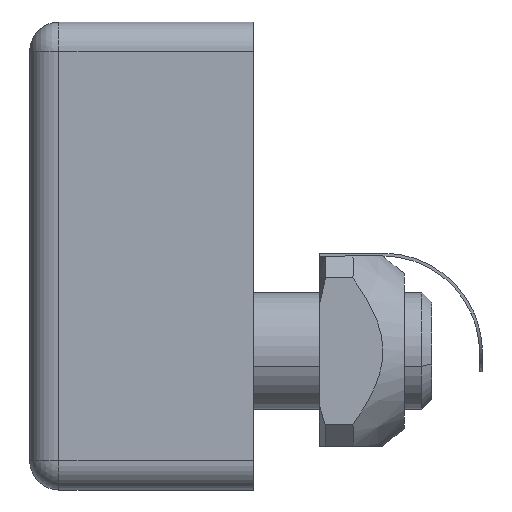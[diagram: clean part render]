
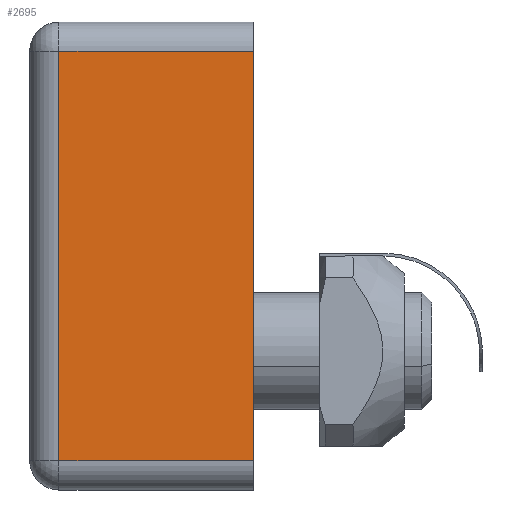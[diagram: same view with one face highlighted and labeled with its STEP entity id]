
A CAD part, left-side view. The second image highlights one B-rep face of the part: STEP entity #2695.
In plain terms, the highlighted planar face has unit normal (-1, 0, 0).
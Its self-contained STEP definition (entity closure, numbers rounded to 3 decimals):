
#185 = AXIS2_PLACEMENT_3D ( 'NONE', #1459, #985, #3452 ) ;
#437 = CARTESIAN_POINT ( 'NONE',  ( -43.436, -7.083, 12.79 ) ) ;
#879 = VECTOR ( 'NONE', #3412, 1000. ) ;
#921 = EDGE_CURVE ( 'NONE', #6672, #3030, #1515, .T. ) ;
#943 = PLANE ( 'NONE',  #185 ) ;
#985 = DIRECTION ( 'NONE',  ( -1., 0., 0. ) ) ;
#1459 = CARTESIAN_POINT ( 'NONE',  ( -43.436, -7.083, -17.21 ) ) ;
#1494 = FACE_OUTER_BOUND ( 'NONE', #4794, .T. ) ;
#1515 = LINE ( 'NONE', #1599, #1593 ) ;
#1536 = VERTEX_POINT ( 'NONE', #6614 ) ;
#1593 = VECTOR ( 'NONE', #2120, 1000. ) ;
#1599 = CARTESIAN_POINT ( 'NONE',  ( -43.436, -7.083, -17.21 ) ) ;
#1729 = CARTESIAN_POINT ( 'NONE',  ( -43.436, -7.083, -15.21 ) ) ;
#1762 = VECTOR ( 'NONE', #3280, 1000. ) ;
#1810 = CARTESIAN_POINT ( 'NONE',  ( -43.436, -7.083, -15.21 ) ) ;
#2120 = DIRECTION ( 'NONE',  ( 0., 0., 1. ) ) ;
#2695 = ADVANCED_FACE ( 'NONE', ( #1494 ), #943, .T. ) ;
#3030 = VERTEX_POINT ( 'NONE', #4677 ) ;
#3080 = EDGE_CURVE ( 'NONE', #6664, #6672, #3782, .T. ) ;
#3280 = DIRECTION ( 'NONE',  ( 0., -1., 0. ) ) ;
#3412 = DIRECTION ( 'NONE',  ( 0., 1., 0. ) ) ;
#3452 = DIRECTION ( 'NONE',  ( 0., 0., 1. ) ) ;
#3593 = EDGE_CURVE ( 'NONE', #3030, #1536, #6121, .T. ) ;
#3782 = LINE ( 'NONE', #1810, #1762 ) ;
#3786 = ORIENTED_EDGE ( 'NONE', *, *, #921, .T. ) ;
#3928 = DIRECTION ( 'NONE',  ( 0., 0., -1. ) ) ;
#4080 = ORIENTED_EDGE ( 'NONE', *, *, #3080, .T. ) ;
#4285 = CARTESIAN_POINT ( 'NONE',  ( -43.436, 6.217, -15.21 ) ) ;
#4597 = ORIENTED_EDGE ( 'NONE', *, *, #3593, .T. ) ;
#4677 = CARTESIAN_POINT ( 'NONE',  ( -43.436, -7.083, 12.79 ) ) ;
#4794 = EDGE_LOOP ( 'NONE', ( #5262, #4080, #3786, #4597 ) ) ;
#5262 = ORIENTED_EDGE ( 'NONE', *, *, #6052, .T. ) ;
#5414 = VECTOR ( 'NONE', #3928, 1000. ) ;
#6052 = EDGE_CURVE ( 'NONE', #1536, #6664, #6553, .T. ) ;
#6121 = LINE ( 'NONE', #437, #879 ) ;
#6492 = CARTESIAN_POINT ( 'NONE',  ( -43.436, 6.217, -17.21 ) ) ;
#6553 = LINE ( 'NONE', #6492, #5414 ) ;
#6614 = CARTESIAN_POINT ( 'NONE',  ( -43.436, 6.217, 12.79 ) ) ;
#6664 = VERTEX_POINT ( 'NONE', #4285 ) ;
#6672 = VERTEX_POINT ( 'NONE', #1729 ) ;
